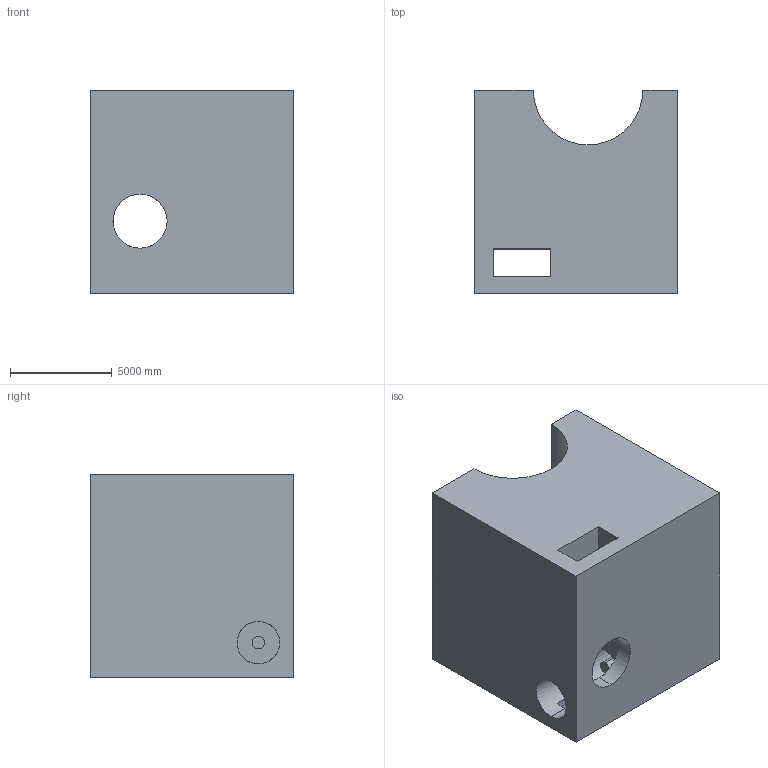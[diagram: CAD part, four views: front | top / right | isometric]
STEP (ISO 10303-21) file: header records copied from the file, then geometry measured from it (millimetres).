
FILE_DESCRIPTION (( 'STEP AP203' ), '1' );
FILE_NAME ('305.STEP', '2022-09-07T12:44:52', ( 'user' ), ( '' ), 'SwSTEP 2.0', 'SolidWorks 2021', '' );
FILE_SCHEMA (( 'CONFIG_CONTROL_DESIGN' ));
Length unit declared in the file: centimetre
Products named in the file (1): 305
Bounding box: 10000 x 10000 x 10000 mm (x, y, z)
Volume: 774024453761.7 mm3; surface area: 777808844.1 mm2
Topology: 1 solids, 1 shells, 42 faces, 123 edges, 82 vertices
Faces by surface type: plane 34, cylinder 8
Entity records: 1801 total; most frequent: CARTESIAN_POINT 570, ORIENTED_EDGE 246, DIRECTION 233, EDGE_CURVE 123, LINE 89, VECTOR 89, VERTEX_POINT 82, AXIS2_PLACEMENT_3D 72
